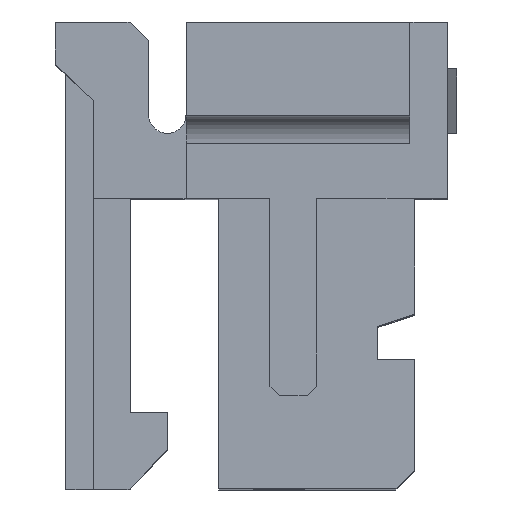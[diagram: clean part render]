
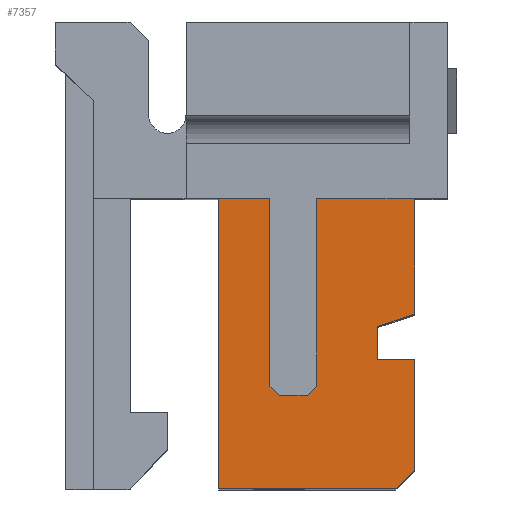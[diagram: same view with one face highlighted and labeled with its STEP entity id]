
A CAD part, top view. The second image highlights one B-rep face of the part: STEP entity #7357.
In plain terms, the highlighted planar face has unit normal (0, 0, 1).
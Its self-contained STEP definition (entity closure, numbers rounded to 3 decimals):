
#83 = EDGE_CURVE ( 'NONE', #634, #6923, #3606, .T. ) ;
#89 = LINE ( 'NONE', #901, #7884 ) ;
#376 = LINE ( 'NONE', #2681, #8106 ) ;
#397 = VECTOR ( 'NONE', #3296, 1000. ) ;
#422 = VECTOR ( 'NONE', #1181, 1000. ) ;
#515 = EDGE_CURVE ( 'NONE', #7432, #8190, #3735, .T. ) ;
#539 = CARTESIAN_POINT ( 'NONE',  ( -1.087, 1.585, 3.7 ) ) ;
#584 = EDGE_CURVE ( 'NONE', #8359, #671, #1414, .T. ) ;
#612 = CARTESIAN_POINT ( 'NONE',  ( -1.087, -3.646, 3.7 ) ) ;
#634 = VERTEX_POINT ( 'NONE', #5566 ) ;
#662 = DIRECTION ( 'NONE',  ( 1., 0., 0. ) ) ;
#671 = VERTEX_POINT ( 'NONE', #2290 ) ;
#722 = EDGE_CURVE ( 'NONE', #4527, #7432, #89, .T. ) ;
#901 = CARTESIAN_POINT ( 'NONE',  ( 0.613, -1.906, 3.7 ) ) ;
#1073 = CARTESIAN_POINT ( 'NONE',  ( 1.013, -1.776, 3.7 ) ) ;
#1181 = DIRECTION ( 'NONE',  ( 1., 0., 0. ) ) ;
#1414 = LINE ( 'NONE', #8303, #7559 ) ;
#1454 = AXIS2_PLACEMENT_3D ( 'NONE', #539, #8437, #5916 ) ;
#1469 = VECTOR ( 'NONE', #5839, 1000. ) ;
#1501 = EDGE_CURVE ( 'NONE', #5376, #4486, #8632, .T. ) ;
#1642 = VERTEX_POINT ( 'NONE', #7481 ) ;
#1888 = ORIENTED_EDGE ( 'NONE', *, *, #8400, .T. ) ;
#1963 = DIRECTION ( 'NONE',  ( 0., 1., 0. ) ) ;
#2162 = VERTEX_POINT ( 'NONE', #9981 ) ;
#2290 = CARTESIAN_POINT ( 'NONE',  ( 1.013, -0.536, 3.7 ) ) ;
#2328 = ORIENTED_EDGE ( 'NONE', *, *, #6582, .F. ) ;
#2349 = CARTESIAN_POINT ( 'NONE',  ( 1.013, -3.446, 3.7 ) ) ;
#2375 = LINE ( 'NONE', #10072, #9382 ) ;
#2549 = CARTESIAN_POINT ( 'NONE',  ( 0.613, -1.906, 3.7 ) ) ;
#2630 = LINE ( 'NONE', #9760, #397 ) ;
#2681 = CARTESIAN_POINT ( 'NONE',  ( 1.013, -1.776, 3.7 ) ) ;
#2721 = DIRECTION ( 'NONE',  ( -0.951, -0.309, 0. ) ) ;
#2845 = PLANE ( 'NONE',  #1454 ) ;
#3027 = ORIENTED_EDGE ( 'NONE', *, *, #8610, .F. ) ;
#3094 = DIRECTION ( 'NONE',  ( 0., 1., 0. ) ) ;
#3183 = ORIENTED_EDGE ( 'NONE', *, *, #83, .T. ) ;
#3296 = DIRECTION ( 'NONE',  ( -0.707, 0.707, 0. ) ) ;
#3315 = DIRECTION ( 'NONE',  ( 1., 0., 0. ) ) ;
#3468 = DIRECTION ( 'NONE',  ( 0., -1., 0. ) ) ;
#3495 = EDGE_CURVE ( 'NONE', #8190, #6923, #7360, .T. ) ;
#3606 = LINE ( 'NONE', #7598, #6075 ) ;
#3735 = LINE ( 'NONE', #8402, #7718 ) ;
#3912 = ORIENTED_EDGE ( 'NONE', *, *, #10047, .T. ) ;
#4195 = EDGE_CURVE ( 'NONE', #2162, #9913, #5903, .T. ) ;
#4246 = VECTOR ( 'NONE', #3315, 1000. ) ;
#4391 = VECTOR ( 'NONE', #4469, 1000. ) ;
#4469 = DIRECTION ( 'NONE',  ( 0., -1., 0. ) ) ;
#4486 = VERTEX_POINT ( 'NONE', #8858 ) ;
#4527 = VERTEX_POINT ( 'NONE', #2549 ) ;
#4529 = EDGE_CURVE ( 'NONE', #1642, #9913, #6613, .T. ) ;
#4723 = CARTESIAN_POINT ( 'NONE',  ( -1.087, -0.536, 3.7 ) ) ;
#4810 = VECTOR ( 'NONE', #3468, 1000. ) ;
#4899 = CARTESIAN_POINT ( 'NONE',  ( -1.087, -3.646, 3.7 ) ) ;
#4990 = ORIENTED_EDGE ( 'NONE', *, *, #7075, .T. ) ;
#5085 = ORIENTED_EDGE ( 'NONE', *, *, #8613, .F. ) ;
#5349 = DIRECTION ( 'NONE',  ( 1., 0., 0. ) ) ;
#5376 = VERTEX_POINT ( 'NONE', #7927 ) ;
#5566 = CARTESIAN_POINT ( 'NONE',  ( 0.813, -3.646, 3.7 ) ) ;
#5705 = ORIENTED_EDGE ( 'NONE', *, *, #515, .F. ) ;
#5773 = CARTESIAN_POINT ( 'NONE',  ( 1.013, 1.585, 3.7 ) ) ;
#5780 = ORIENTED_EDGE ( 'NONE', *, *, #1501, .F. ) ;
#5826 = ORIENTED_EDGE ( 'NONE', *, *, #4529, .T. ) ;
#5837 = EDGE_CURVE ( 'NONE', #5376, #6785, #7607, .T. ) ;
#5839 = DIRECTION ( 'NONE',  ( -0.707, -0.707, 0. ) ) ;
#5903 = LINE ( 'NONE', #8219, #422 ) ;
#5916 = DIRECTION ( 'NONE',  ( 0., -1., 0. ) ) ;
#5970 = DIRECTION ( 'NONE',  ( 0., -1., 0. ) ) ;
#6070 = CARTESIAN_POINT ( 'NONE',  ( 0.613, -2.256, 3.7 ) ) ;
#6075 = VECTOR ( 'NONE', #9081, 1000. ) ;
#6167 = ORIENTED_EDGE ( 'NONE', *, *, #4195, .F. ) ;
#6289 = VECTOR ( 'NONE', #5970, 1000. ) ;
#6351 = ORIENTED_EDGE ( 'NONE', *, *, #722, .F. ) ;
#6409 = LINE ( 'NONE', #1073, #8334 ) ;
#6510 = VERTEX_POINT ( 'NONE', #9385 ) ;
#6582 = EDGE_CURVE ( 'NONE', #7797, #4527, #6409, .T. ) ;
#6587 = VECTOR ( 'NONE', #5349, 1000. ) ;
#6613 = LINE ( 'NONE', #9732, #1469 ) ;
#6746 = CARTESIAN_POINT ( 'NONE',  ( -0.537, -2.646, 3.7 ) ) ;
#6785 = VERTEX_POINT ( 'NONE', #612 ) ;
#6854 = CARTESIAN_POINT ( 'NONE',  ( 1.013, -2.256, 3.7 ) ) ;
#6923 = VERTEX_POINT ( 'NONE', #2349 ) ;
#7075 = EDGE_CURVE ( 'NONE', #6785, #634, #7310, .T. ) ;
#7152 = DIRECTION ( 'NONE',  ( 0., -1., 0. ) ) ;
#7310 = LINE ( 'NONE', #4899, #4246 ) ;
#7357 = ADVANCED_FACE ( 'NONE', ( #7662 ), #2845, .F. ) ;
#7360 = LINE ( 'NONE', #5773, #4810 ) ;
#7432 = VERTEX_POINT ( 'NONE', #6070 ) ;
#7481 = CARTESIAN_POINT ( 'NONE',  ( -0.037, -2.546, 3.7 ) ) ;
#7526 = DIRECTION ( 'NONE',  ( 1., 0., 0. ) ) ;
#7559 = VECTOR ( 'NONE', #7526, 1000. ) ;
#7598 = CARTESIAN_POINT ( 'NONE',  ( 1.013, -3.446, 3.7 ) ) ;
#7607 = LINE ( 'NONE', #7706, #4391 ) ;
#7662 = FACE_OUTER_BOUND ( 'NONE', #7711, .T. ) ;
#7688 = CARTESIAN_POINT ( 'NONE',  ( 1.013, -1.776, 3.7 ) ) ;
#7706 = CARTESIAN_POINT ( 'NONE',  ( -1.087, 1.585, 3.7 ) ) ;
#7711 = EDGE_LOOP ( 'NONE', ( #4990, #3183, #9072, #5705, #6351, #2328, #3912, #8740, #5085, #5826, #6167, #1888, #3027, #5780, #8164 ) ) ;
#7718 = VECTOR ( 'NONE', #662, 1000. ) ;
#7797 = VERTEX_POINT ( 'NONE', #7688 ) ;
#7884 = VECTOR ( 'NONE', #7152, 1000. ) ;
#7927 = CARTESIAN_POINT ( 'NONE',  ( -1.087, -0.536, 3.7 ) ) ;
#8014 = CARTESIAN_POINT ( 'NONE',  ( -0.137, -2.646, 3.7 ) ) ;
#8106 = VECTOR ( 'NONE', #1963, 1000. ) ;
#8164 = ORIENTED_EDGE ( 'NONE', *, *, #5837, .T. ) ;
#8190 = VERTEX_POINT ( 'NONE', #6854 ) ;
#8219 = CARTESIAN_POINT ( 'NONE',  ( -0.037, -2.646, 3.7 ) ) ;
#8303 = CARTESIAN_POINT ( 'NONE',  ( -1.087, -0.536, 3.7 ) ) ;
#8334 = VECTOR ( 'NONE', #2721, 1000. ) ;
#8359 = VERTEX_POINT ( 'NONE', #9505 ) ;
#8400 = EDGE_CURVE ( 'NONE', #2162, #6510, #2630, .T. ) ;
#8402 = CARTESIAN_POINT ( 'NONE',  ( 0.613, -2.256, 3.7 ) ) ;
#8437 = DIRECTION ( 'NONE',  ( 0., 0., -1. ) ) ;
#8610 = EDGE_CURVE ( 'NONE', #4486, #6510, #9810, .T. ) ;
#8613 = EDGE_CURVE ( 'NONE', #1642, #8359, #2375, .T. ) ;
#8632 = LINE ( 'NONE', #4723, #6587 ) ;
#8740 = ORIENTED_EDGE ( 'NONE', *, *, #584, .F. ) ;
#8858 = CARTESIAN_POINT ( 'NONE',  ( -0.537, -0.536, 3.7 ) ) ;
#9072 = ORIENTED_EDGE ( 'NONE', *, *, #3495, .F. ) ;
#9081 = DIRECTION ( 'NONE',  ( 0.707, 0.707, 0. ) ) ;
#9382 = VECTOR ( 'NONE', #3094, 1000. ) ;
#9385 = CARTESIAN_POINT ( 'NONE',  ( -0.537, -2.546, 3.7 ) ) ;
#9505 = CARTESIAN_POINT ( 'NONE',  ( -0.037, -0.536, 3.7 ) ) ;
#9732 = CARTESIAN_POINT ( 'NONE',  ( 1.504, -1.005, 3.7 ) ) ;
#9760 = CARTESIAN_POINT ( 'NONE',  ( -2.877, -0.205, 3.7 ) ) ;
#9810 = LINE ( 'NONE', #6746, #6289 ) ;
#9913 = VERTEX_POINT ( 'NONE', #8014 ) ;
#9981 = CARTESIAN_POINT ( 'NONE',  ( -0.437, -2.646, 3.7 ) ) ;
#10047 = EDGE_CURVE ( 'NONE', #7797, #671, #376, .T. ) ;
#10072 = CARTESIAN_POINT ( 'NONE',  ( -0.037, -0.536, 3.7 ) ) ;
